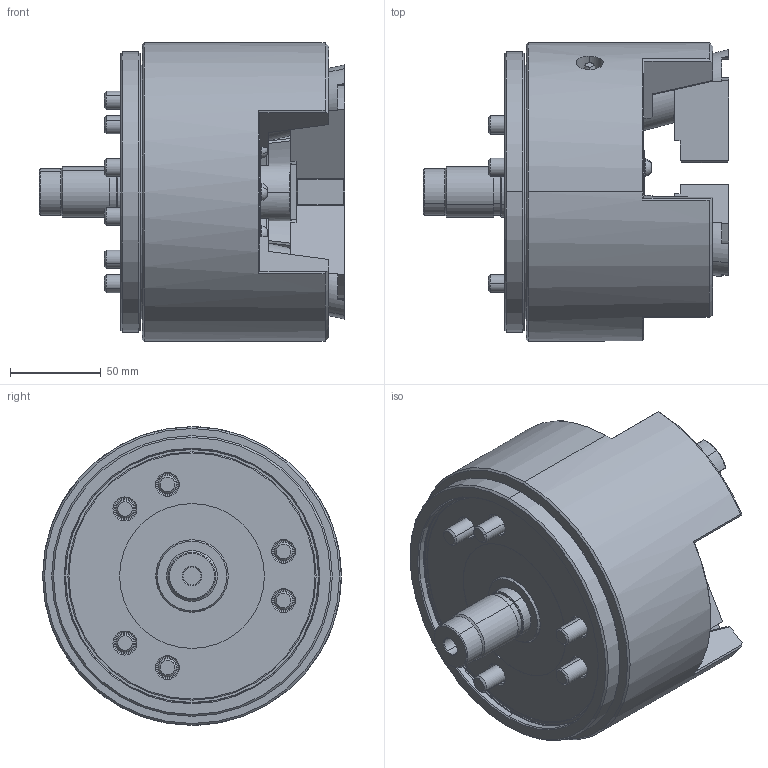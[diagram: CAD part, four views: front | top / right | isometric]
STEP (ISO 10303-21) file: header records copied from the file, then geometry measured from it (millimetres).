
FILE_DESCRIPTION (( 'STEP AP214' ), '1' );
FILE_NAME ('PU206_UC.STEP', '2019-10-18T08:43:40', ( '' ), ( '' ), 'SwSTEP 2.0', 'SolidWorks 2017', '' );
FILE_SCHEMA (( 'AUTOMOTIVE_DESIGN' ));
Length unit declared in the file: millimetre
Products named in the file (4): 結合; 0030110025; 61P332352; PU206_UC
Assembly tree (7 placements, depth 2):
  PU206_UC
    61P332352  x3
    0030110025  x3
    結合
Bounding box: 169 x 165 x 165 mm (x, y, z)
Volume: 1810792.4 mm3; surface area: 194517.2 mm2
Topology: 7 solids, 7 shells, 1092 faces, 2727 edges, 1711 vertices
Faces by surface type: plane 524, cone 209, cylinder 173, bspline 147, torus 39
Entity records: 35620 total; most frequent: CARTESIAN_POINT 12916, ORIENTED_EDGE 4946, DIRECTION 4230, EDGE_CURVE 2473, VERTEX_POINT 1573, AXIS2_PLACEMENT_3D 1457, VECTOR 1316, LINE 1316
